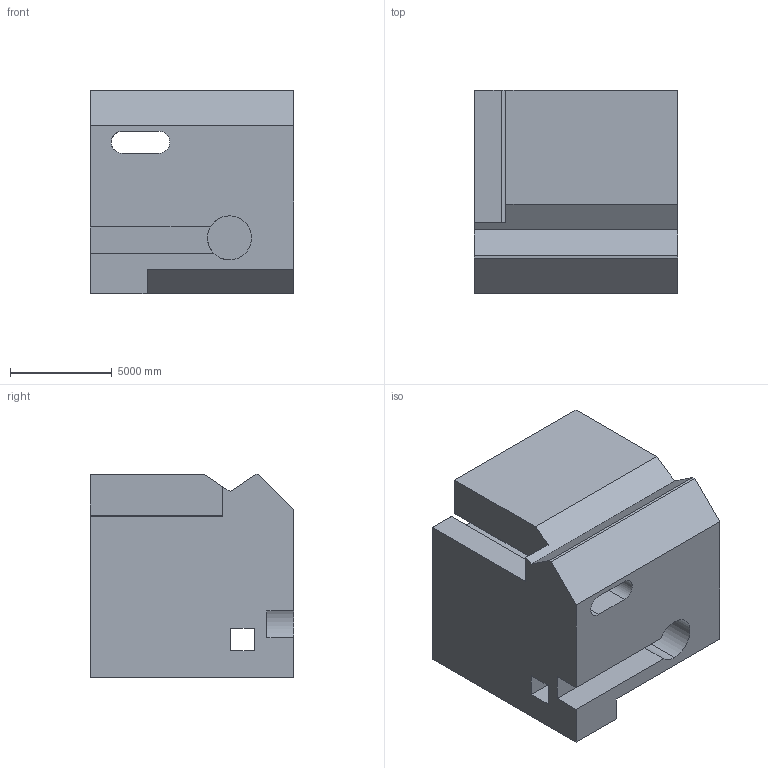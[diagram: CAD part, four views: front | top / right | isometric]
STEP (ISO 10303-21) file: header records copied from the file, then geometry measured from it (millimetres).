
FILE_DESCRIPTION (( 'STEP AP203' ), '1' );
FILE_NAME ('969.STEP', '2022-07-29T14:47:57', ( 'user' ), ( '' ), 'SwSTEP 2.0', 'SolidWorks 2021', '' );
FILE_SCHEMA (( 'CONFIG_CONTROL_DESIGN' ));
Length unit declared in the file: centimetre
Products named in the file (1): 969
Bounding box: 10000 x 10000 x 10000 mm (x, y, z)
Volume: 866641868572.3 mm3; surface area: 734424225.7 mm2
Topology: 1 solids, 1 shells, 36 faces, 102 edges, 68 vertices
Faces by surface type: plane 32, cylinder 4
Entity records: 1243 total; most frequent: CARTESIAN_POINT 207, ORIENTED_EDGE 204, DIRECTION 188, EDGE_CURVE 102, VECTOR 90, LINE 90, VERTEX_POINT 68, AXIS2_PLACEMENT_3D 49
